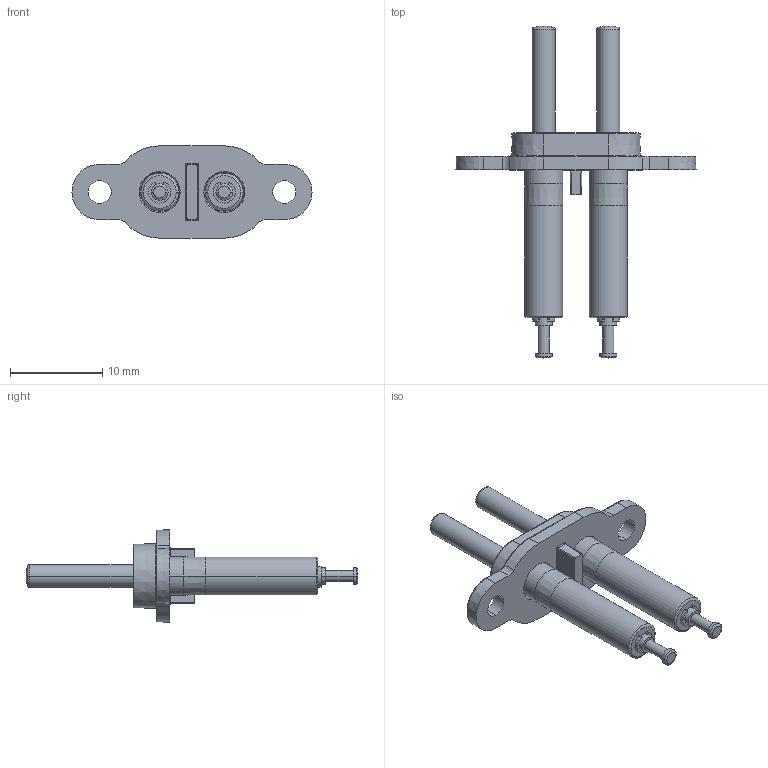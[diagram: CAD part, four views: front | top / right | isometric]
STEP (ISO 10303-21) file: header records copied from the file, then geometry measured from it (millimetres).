
FILE_DESCRIPTION (( 'STEP AP214' ), '1' );
FILE_NAME ('ICA-2-SCT.STEP', '2023-02-08T10:01:14', ( '' ), ( '' ), 'SwSTEP 2.0', 'SolidWorks 2022', '' );
FILE_SCHEMA (( 'AUTOMOTIVE_DESIGN' ));
Length unit declared in the file: millimetre
Products named in the file (3): ICA-2-SCT; SD SC 2; ISC2JST
Assembly tree (3 placements, depth 2):
  ICA-2-SCT
    SD SC 2
    ISC2JST  x2
Bounding box: 26 x 35.95 x 10 mm (x, y, z)
Volume: 1066.3 mm3; surface area: 1490.8 mm2
Topology: 9 solids, 9 shells, 212 faces, 500 edges, 314 vertices
Faces by surface type: bspline 86, cylinder 54, cone 32, plane 32, sphere 4, torus 4
Entity records: 5595 total; most frequent: CARTESIAN_POINT 1579, ORIENTED_EDGE 688, DIRECTION 542, EDGE_CURVE 344, AXIS2_PLACEMENT_3D 220, VERTEX_POINT 213, EDGE_LOOP 159, FACE_OUTER_BOUND 146
